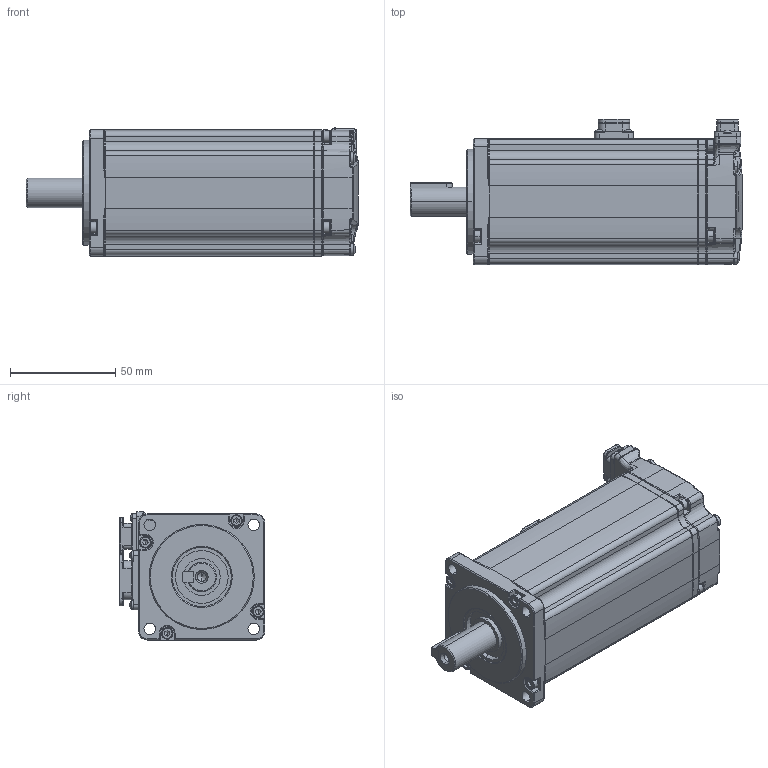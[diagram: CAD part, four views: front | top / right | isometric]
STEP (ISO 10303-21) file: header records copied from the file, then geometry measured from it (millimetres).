
FILE_DESCRIPTION (( 'STEP AP214' ), '1' );
FILE_NAME ('UMM-0004BAB-B5.STEP', '2024-08-20T09:59:39', ( '' ), ( '' ), 'SwSTEP 2.0', 'SolidWorks 2022', '' );
FILE_SCHEMA (( 'AUTOMOTIVE_DESIGN' ));
Length unit declared in the file: millimetre
Products named in the file (1): UMM-0004BAB-B5
Bounding box: 158 x 69.3 x 60.92 mm (x, y, z)
Volume: 404093.2 mm3; surface area: 94312 mm2
Topology: 17 solids, 30 shells, 2956 faces, 7710 edges, 4842 vertices
Faces by surface type: plane 1424, cylinder 858, bspline 437, cone 233, torus 4
Entity records: 136114 total; most frequent: CARTESIAN_POINT 46775, ORIENTED_EDGE 15258, DIRECTION 12982, EDGE_CURVE 7629, VERTEX_POINT 4838, AXIS2_PLACEMENT_3D 4398, VECTOR 4186, LINE 4186
